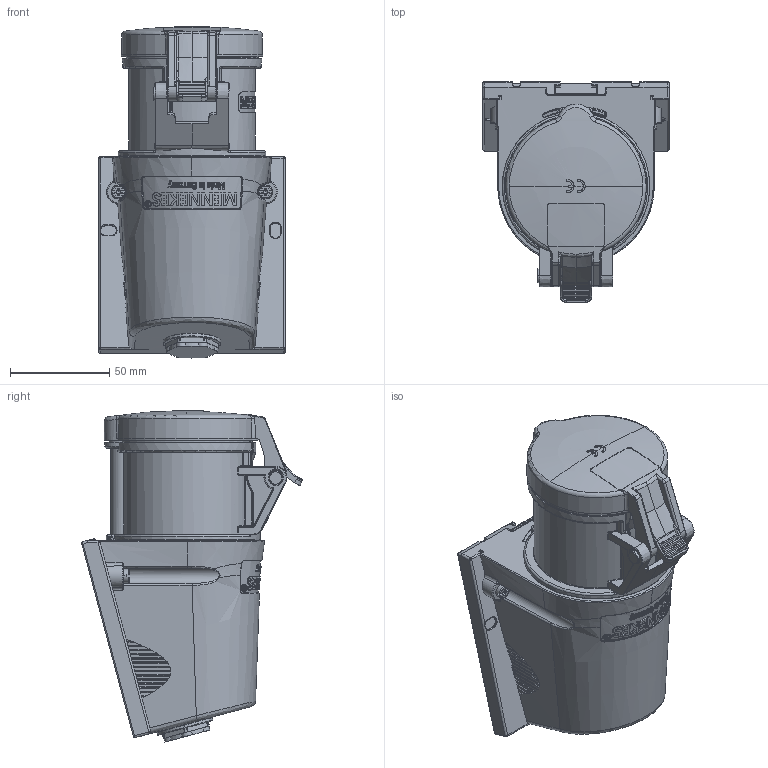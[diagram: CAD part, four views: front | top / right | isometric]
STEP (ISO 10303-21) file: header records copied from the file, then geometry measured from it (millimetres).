
FILE_DESCRIPTION((''),'2;1');
FILE_NAME('1346_SW0001','2017-11-10T',('gisse'),('MENNEKES'),'PRO/ENGINEER BY PARAMETRIC TECHNOLOGY CORPORATION, 2015440','PRO/ENGINEER BY PARAMETRIC TECHNOLOGY CORPORATION, 2015440','');
FILE_SCHEMA(('AUTOMOTIVE_DESIGN { 1 0 10303 214 1 1 1 1 }'));
Length unit declared in the file: millimetre
Products named in the file (1): 1346_SW0001
Bounding box: 93.98 x 111.04 x 167.02 mm (x, y, z)
Volume: 711711 mm3; surface area: 65475.4 mm2
Topology: 1 solids, 1 shells, 1819 faces, 4846 edges, 3068 vertices
Faces by surface type: plane 734, cylinder 351, extrusion 282, bspline 246, cone 90, torus 88, sphere 28
Entity records: 106011 total; most frequent: CARTESIAN_POINT 29342, ORIENTED_EDGE 9674, PRESENTATION_STYLE_ASSIGNMENT 6884, DIRECTION 6664, STYLED_ITEM 5379, CURVE_STYLE 5117, EDGE_CURVE 4837, FILL_AREA_STYLE_COLOUR 3272
